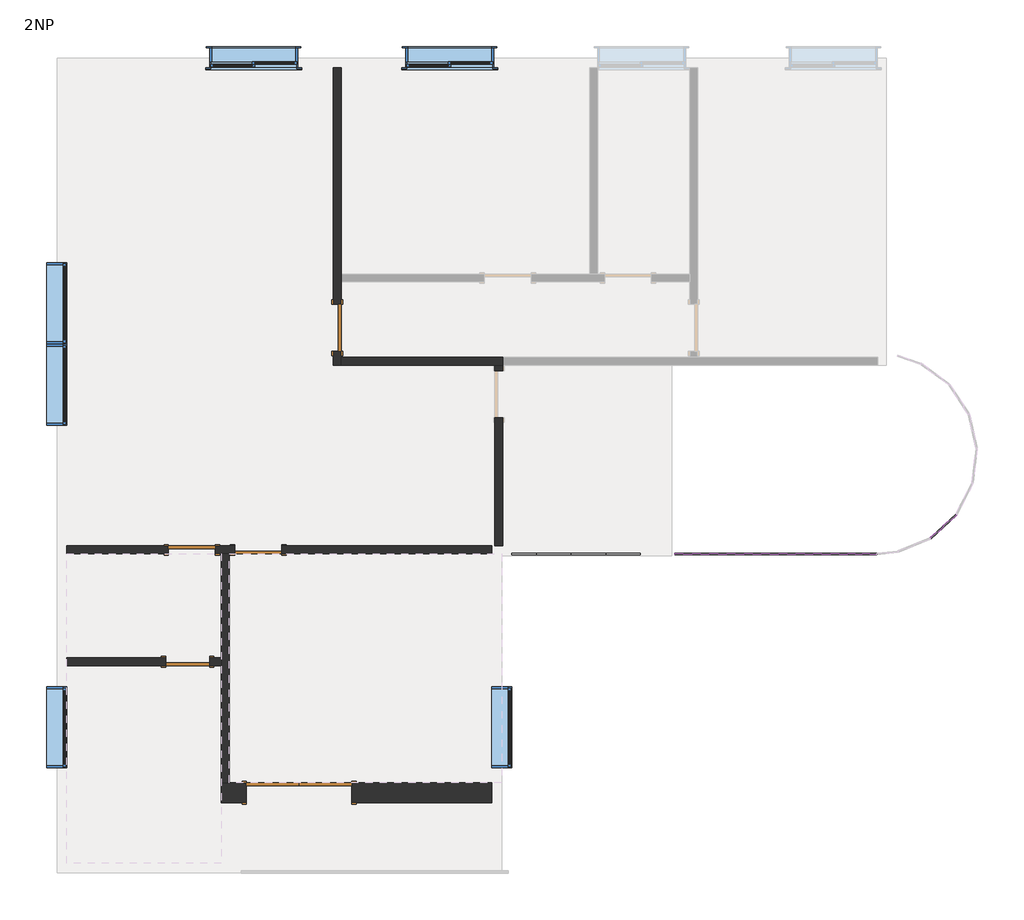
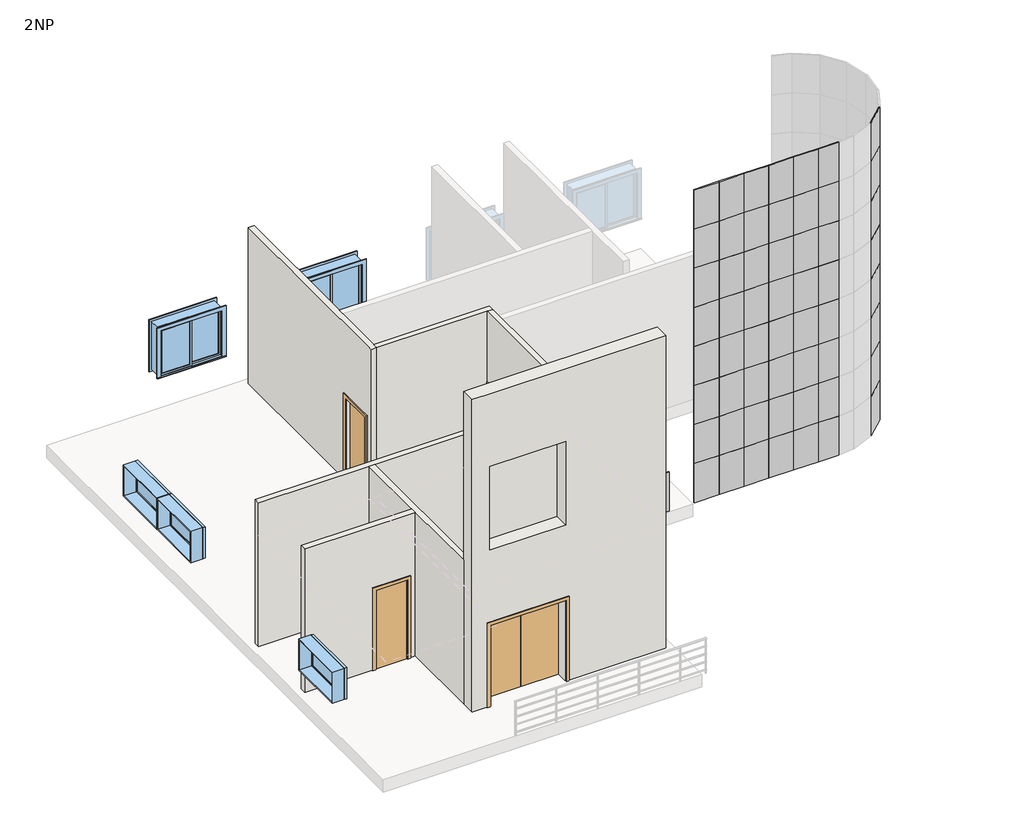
# One storey, part 1 of 2: 60 plates, 7 walls, 6 windows, 5 doors.
"""IFC4 building model written with IfcOpenShell, lengths in millimetres."""

from ifc_helpers import new_model, si_unit, frame, origin, place, context, project, spatial, polyline, outline, extrude, faceted_brep, transform, mapped, element, save
from components import m_double_flush_1830_x_2083mm_6dd157be, m_single_flush_0762_x_2032mm_8f3f8d24, m_single_flush_0813_x_2134mm_cfdfac75, system_panel_glazed_c3ce6646, system_panel_glazed_cfa42cd7, system_panel_glazed_9e0dc01b, system_panel_glazed_8955cf43, m_fixed_1400_x_0800mm_a23a53e8, m_sliding_with_trim_1830_x_1220mm_f8e2f31e

model = new_model("IFC4")

# Units and contexts
model_context = context("Model", 3, world=origin())
ifc_project = project(units=[si_unit("LENGTHUNIT", "METRE", prefix="MILLI")], contexts=[model_context])

# Site, building, storey
site = spatial("IfcSite", under=ifc_project)
building = spatial("IfcBuilding", under=site)
storey = spatial("IfcBuildingStorey", under=building, Name="2NP", Elevation=4000.0)

# Doors
placement = place(None, origin())
m_double_flush_1830_x_2083mm_shape = m_double_flush_1830_x_2083mm_6dd157be(model_context)
element("IfcDoor", 1, ObjectType="M_Double-Flush : 1830 x 2083mm", at=placement, inside=storey, context=model_context, shape_type="MappedRepresentation", body=[
    mapped(m_double_flush_1830_x_2083mm_shape, transform((-3151.8077176, -2850.1973194, 4000.0), x_axis=(0.9999999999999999, 0.0, 0.0), y_axis=(0.0, 0.9999999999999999, 0.0), z_axis=(0.0, 0.0, 1.0))),
])
m_single_flush_0762_x_2032mm_shape = m_single_flush_0762_x_2032mm_8f3f8d24(model_context)
element("IfcDoor", 2, ObjectType="M_Single-Flush : 0762 x 2032mm", at=placement, inside=storey, context=model_context, shape_type="MappedRepresentation", body=[
    mapped(m_single_flush_0762_x_2032mm_shape, transform((-5086.3077176, -582.9473194, 4000.0), x_axis=(1.0, 0.0, 0.0), y_axis=(0.0, 1.0, 0.0), z_axis=(0.0, 0.0, 1.0))),
])
m_single_flush_0813_x_2134mm_shape = m_single_flush_0813_x_2134mm_cfdfac75(model_context)
element("IfcDoor", 3, ObjectType="M_Single-Flush : 0813 x 2134mm", at=placement, inside=storey, context=model_context, shape_type="MappedRepresentation", body=[
    mapped(m_single_flush_0813_x_2134mm_shape, transform((-5011.8077176, 1355.5526806, 4000.0), x_axis=(1.0, 0.0, 0.0), y_axis=(0.0, 1.0, 0.0), z_axis=(0.0, 0.0, 1.0))),
])
element("IfcDoor", 4, ObjectType="M_Single-Flush : 0813 x 2134mm", at=placement, inside=storey, context=model_context, shape_type="MappedRepresentation", body=[
    mapped(m_single_flush_0813_x_2134mm_shape, transform((-3860.3077176, 1355.5526806, 4000.0), x_axis=(-1.0, 0.0, 0.0), y_axis=(0.0, -1.0, 0.0), z_axis=(0.0, 0.0, 1.0))),
])
element("IfcDoor", 5, ObjectType="M_Single-Flush : 0813 x 2134mm", at=placement, inside=storey, context=model_context, shape_type="MappedRepresentation", body=[
    mapped(m_single_flush_0813_x_2134mm_shape, transform((-2489.4577176, 5206.5261065, 4000.0), x_axis=(0.0, -1.0, 0.0), y_axis=(1.0, 0.0, 0.0), z_axis=(0.0, 0.0, 1.0))),
])

# Plates
system_panel_glazed_shape = system_panel_glazed_c3ce6646(model_context)
element("IfcPlate", 6, ObjectType="System Panel : Glazed", at=placement, inside=storey, context=model_context, shape_type="MappedRepresentation", body=[
    mapped(system_panel_glazed_shape, transform((1257.3775179, 1249.8026806, 4000.0), x_axis=(1.0, 0.0, 0.0), y_axis=(0.0, 1.0, 0.0), z_axis=(0.0, 0.0, 1.0))),
])
element("IfcPlate", 7, ObjectType="System Panel : Glazed", at=placement, inside=storey, context=model_context, shape_type="MappedRepresentation", body=[
    mapped(system_panel_glazed_shape, transform((1857.3775179, 1249.8026806, 4000.0), x_axis=(1.0, 0.0, 0.0), y_axis=(0.0, 1.0, 0.0), z_axis=(0.0, 0.0, 1.0))),
])
element("IfcPlate", 8, ObjectType="System Panel : Glazed", at=placement, inside=storey, context=model_context, shape_type="MappedRepresentation", body=[
    mapped(system_panel_glazed_shape, transform((2457.3775179, 1249.8026806, 4000.0), x_axis=(1.0, 0.0, 0.0), y_axis=(0.0, 1.0, 0.0), z_axis=(0.0, 0.0, 1.0))),
])
element("IfcPlate", 9, ObjectType="System Panel : Glazed", at=placement, inside=storey, context=model_context, shape_type="MappedRepresentation", body=[
    mapped(system_panel_glazed_shape, transform((3657.3775179, 1249.8026806, 4000.0), x_axis=(1.0, 0.0, 0.0), y_axis=(0.0, 1.0, 0.0), z_axis=(0.0, 0.0, 1.0))),
])
element("IfcPlate", 10, ObjectType="System Panel : Glazed", at=placement, inside=storey, context=model_context, shape_type="MappedRepresentation", body=[
    mapped(system_panel_glazed_shape, transform((3657.3775179, 1249.8026806, 5000.0), x_axis=(1.0, 0.0, 0.0), y_axis=(0.0, 1.0, 0.0), z_axis=(0.0, 0.0, 1.0))),
])
element("IfcPlate", 11, ObjectType="System Panel : Glazed", at=placement, inside=storey, context=model_context, shape_type="MappedRepresentation", body=[
    mapped(system_panel_glazed_shape, transform((3657.3775179, 1249.8026806, 6000.0), x_axis=(1.0, 0.0, 0.0), y_axis=(0.0, 1.0, 0.0), z_axis=(0.0, 0.0, 1.0))),
])
element("IfcPlate", 12, ObjectType="System Panel : Glazed", at=placement, inside=storey, context=model_context, shape_type="MappedRepresentation", body=[
    mapped(system_panel_glazed_shape, transform((3657.3775179, 1249.8026806, 7000.0), x_axis=(1.0, 0.0, 0.0), y_axis=(0.0, 1.0, 0.0), z_axis=(0.0, 0.0, 1.0))),
])
element("IfcPlate", 13, ObjectType="System Panel : Glazed", at=placement, inside=storey, context=model_context, shape_type="MappedRepresentation", body=[
    mapped(system_panel_glazed_shape, transform((3657.3775179, 1249.8026806, 8000.0), x_axis=(1.0, 0.0, 0.0), y_axis=(0.0, 1.0, 0.0), z_axis=(0.0, 0.0, 1.0))),
])
element("IfcPlate", 14, ObjectType="System Panel : Glazed", at=placement, inside=storey, context=model_context, shape_type="MappedRepresentation", body=[
    mapped(system_panel_glazed_shape, transform((3657.3775179, 1249.8026806, 9000.0), x_axis=(1.0, 0.0, 0.0), y_axis=(0.0, 1.0, 0.0), z_axis=(0.0, 0.0, 1.0))),
])
element("IfcPlate", 15, ObjectType="System Panel : Glazed", at=placement, inside=storey, context=model_context, shape_type="MappedRepresentation", body=[
    mapped(system_panel_glazed_shape, transform((3657.3775179, 1249.8026806, 10000.0), x_axis=(1.0, 0.0, 0.0), y_axis=(0.0, 1.0, 0.0), z_axis=(0.0, 0.0, 1.0))),
])
element("IfcPlate", 16, ObjectType="System Panel : Glazed", at=placement, inside=storey, context=model_context, shape_type="MappedRepresentation", body=[
    mapped(system_panel_glazed_shape, transform((3657.3775179, 1249.8026806, 11000.0), x_axis=(1.0, 0.0, 0.0), y_axis=(0.0, 1.0, 0.0), z_axis=(0.0, 0.0, 1.0))),
])
element("IfcPlate", 17, ObjectType="System Panel : Glazed", at=placement, inside=storey, context=model_context, shape_type="MappedRepresentation", body=[
    mapped(system_panel_glazed_shape, transform((4257.3775179, 1249.8026806, 4000.0), x_axis=(1.0, 0.0, 0.0), y_axis=(0.0, 1.0, 0.0), z_axis=(0.0, 0.0, 1.0))),
])
element("IfcPlate", 18, ObjectType="System Panel : Glazed", at=placement, inside=storey, context=model_context, shape_type="MappedRepresentation", body=[
    mapped(system_panel_glazed_shape, transform((4257.3775179, 1249.8026806, 5000.0), x_axis=(1.0, 0.0, 0.0), y_axis=(0.0, 1.0, 0.0), z_axis=(0.0, 0.0, 1.0))),
])
element("IfcPlate", 19, ObjectType="System Panel : Glazed", at=placement, inside=storey, context=model_context, shape_type="MappedRepresentation", body=[
    mapped(system_panel_glazed_shape, transform((4257.3775179, 1249.8026806, 6000.0), x_axis=(1.0, 0.0, 0.0), y_axis=(0.0, 1.0, 0.0), z_axis=(0.0, 0.0, 1.0))),
])
element("IfcPlate", 20, ObjectType="System Panel : Glazed", at=placement, inside=storey, context=model_context, shape_type="MappedRepresentation", body=[
    mapped(system_panel_glazed_shape, transform((4257.3775179, 1249.8026806, 7000.0), x_axis=(1.0, 0.0, 0.0), y_axis=(0.0, 1.0, 0.0), z_axis=(0.0, 0.0, 1.0))),
])
element("IfcPlate", 21, ObjectType="System Panel : Glazed", at=placement, inside=storey, context=model_context, shape_type="MappedRepresentation", body=[
    mapped(system_panel_glazed_shape, transform((4257.3775179, 1249.8026806, 8000.0), x_axis=(1.0, 0.0, 0.0), y_axis=(0.0, 1.0, 0.0), z_axis=(0.0, 0.0, 1.0))),
])
element("IfcPlate", 22, ObjectType="System Panel : Glazed", at=placement, inside=storey, context=model_context, shape_type="MappedRepresentation", body=[
    mapped(system_panel_glazed_shape, transform((4257.3775179, 1249.8026806, 9000.0), x_axis=(1.0, 0.0, 0.0), y_axis=(0.0, 1.0, 0.0), z_axis=(0.0, 0.0, 1.0))),
])
element("IfcPlate", 23, ObjectType="System Panel : Glazed", at=placement, inside=storey, context=model_context, shape_type="MappedRepresentation", body=[
    mapped(system_panel_glazed_shape, transform((4257.3775179, 1249.8026806, 10000.0), x_axis=(1.0, 0.0, 0.0), y_axis=(0.0, 1.0, 0.0), z_axis=(0.0, 0.0, 1.0))),
])
element("IfcPlate", 24, ObjectType="System Panel : Glazed", at=placement, inside=storey, context=model_context, shape_type="MappedRepresentation", body=[
    mapped(system_panel_glazed_shape, transform((4257.3775179, 1249.8026806, 11000.0), x_axis=(1.0, 0.0, 0.0), y_axis=(0.0, 1.0, 0.0), z_axis=(0.0, 0.0, 1.0))),
])
element("IfcPlate", 25, ObjectType="System Panel : Glazed", at=placement, inside=storey, context=model_context, shape_type="MappedRepresentation", body=[
    mapped(system_panel_glazed_shape, transform((4857.3775179, 1249.8026806, 4000.0), x_axis=(1.0, 0.0, 0.0), y_axis=(0.0, 1.0, 0.0), z_axis=(0.0, 0.0, 1.0))),
])
element("IfcPlate", 26, ObjectType="System Panel : Glazed", at=placement, inside=storey, context=model_context, shape_type="MappedRepresentation", body=[
    mapped(system_panel_glazed_shape, transform((4857.3775179, 1249.8026806, 5000.0), x_axis=(1.0, 0.0, 0.0), y_axis=(0.0, 1.0, 0.0), z_axis=(0.0, 0.0, 1.0))),
])
element("IfcPlate", 27, ObjectType="System Panel : Glazed", at=placement, inside=storey, context=model_context, shape_type="MappedRepresentation", body=[
    mapped(system_panel_glazed_shape, transform((4857.3775179, 1249.8026806, 6000.0), x_axis=(1.0, 0.0, 0.0), y_axis=(0.0, 1.0, 0.0), z_axis=(0.0, 0.0, 1.0))),
])
element("IfcPlate", 28, ObjectType="System Panel : Glazed", at=placement, inside=storey, context=model_context, shape_type="MappedRepresentation", body=[
    mapped(system_panel_glazed_shape, transform((4857.3775179, 1249.8026806, 7000.0), x_axis=(1.0, 0.0, 0.0), y_axis=(0.0, 1.0, 0.0), z_axis=(0.0, 0.0, 1.0))),
])
element("IfcPlate", 29, ObjectType="System Panel : Glazed", at=placement, inside=storey, context=model_context, shape_type="MappedRepresentation", body=[
    mapped(system_panel_glazed_shape, transform((4857.3775179, 1249.8026806, 8000.0), x_axis=(1.0, 0.0, 0.0), y_axis=(0.0, 1.0, 0.0), z_axis=(0.0, 0.0, 1.0))),
])
element("IfcPlate", 30, ObjectType="System Panel : Glazed", at=placement, inside=storey, context=model_context, shape_type="MappedRepresentation", body=[
    mapped(system_panel_glazed_shape, transform((4857.3775179, 1249.8026806, 9000.0), x_axis=(1.0, 0.0, 0.0), y_axis=(0.0, 1.0, 0.0), z_axis=(0.0, 0.0, 1.0))),
])
element("IfcPlate", 31, ObjectType="System Panel : Glazed", at=placement, inside=storey, context=model_context, shape_type="MappedRepresentation", body=[
    mapped(system_panel_glazed_shape, transform((4857.3775179, 1249.8026806, 10000.0), x_axis=(1.0, 0.0, 0.0), y_axis=(0.0, 1.0, 0.0), z_axis=(0.0, 0.0, 1.0))),
])
element("IfcPlate", 32, ObjectType="System Panel : Glazed", at=placement, inside=storey, context=model_context, shape_type="MappedRepresentation", body=[
    mapped(system_panel_glazed_shape, transform((4857.3775179, 1249.8026806, 11000.0), x_axis=(1.0, 0.0, 0.0), y_axis=(0.0, 1.0, 0.0), z_axis=(0.0, 0.0, 1.0))),
])
element("IfcPlate", 33, ObjectType="System Panel : Glazed", at=placement, inside=storey, context=model_context, shape_type="MappedRepresentation", body=[
    mapped(system_panel_glazed_shape, transform((5457.3775179, 1249.8026806, 4000.0), x_axis=(1.0, 0.0, 0.0), y_axis=(0.0, 1.0, 0.0), z_axis=(0.0, 0.0, 1.0))),
])
element("IfcPlate", 34, ObjectType="System Panel : Glazed", at=placement, inside=storey, context=model_context, shape_type="MappedRepresentation", body=[
    mapped(system_panel_glazed_shape, transform((5457.3775179, 1249.8026806, 5000.0), x_axis=(1.0, 0.0, 0.0), y_axis=(0.0, 1.0, 0.0), z_axis=(0.0, 0.0, 1.0))),
])
element("IfcPlate", 35, ObjectType="System Panel : Glazed", at=placement, inside=storey, context=model_context, shape_type="MappedRepresentation", body=[
    mapped(system_panel_glazed_shape, transform((5457.3775179, 1249.8026806, 6000.0), x_axis=(1.0, 0.0, 0.0), y_axis=(0.0, 1.0, 0.0), z_axis=(0.0, 0.0, 1.0))),
])
element("IfcPlate", 36, ObjectType="System Panel : Glazed", at=placement, inside=storey, context=model_context, shape_type="MappedRepresentation", body=[
    mapped(system_panel_glazed_shape, transform((5457.3775179, 1249.8026806, 7000.0), x_axis=(1.0, 0.0, 0.0), y_axis=(0.0, 1.0, 0.0), z_axis=(0.0, 0.0, 1.0))),
])
element("IfcPlate", 37, ObjectType="System Panel : Glazed", at=placement, inside=storey, context=model_context, shape_type="MappedRepresentation", body=[
    mapped(system_panel_glazed_shape, transform((5457.3775179, 1249.8026806, 8000.0), x_axis=(1.0, 0.0, 0.0), y_axis=(0.0, 1.0, 0.0), z_axis=(0.0, 0.0, 1.0))),
])
element("IfcPlate", 38, ObjectType="System Panel : Glazed", at=placement, inside=storey, context=model_context, shape_type="MappedRepresentation", body=[
    mapped(system_panel_glazed_shape, transform((5457.3775179, 1249.8026806, 9000.0), x_axis=(1.0, 0.0, 0.0), y_axis=(0.0, 1.0, 0.0), z_axis=(0.0, 0.0, 1.0))),
])
element("IfcPlate", 39, ObjectType="System Panel : Glazed", at=placement, inside=storey, context=model_context, shape_type="MappedRepresentation", body=[
    mapped(system_panel_glazed_shape, transform((5457.3775179, 1249.8026806, 10000.0), x_axis=(1.0, 0.0, 0.0), y_axis=(0.0, 1.0, 0.0), z_axis=(0.0, 0.0, 1.0))),
])
element("IfcPlate", 40, ObjectType="System Panel : Glazed", at=placement, inside=storey, context=model_context, shape_type="MappedRepresentation", body=[
    mapped(system_panel_glazed_shape, transform((5457.3775179, 1249.8026806, 11000.0), x_axis=(1.0, 0.0, 0.0), y_axis=(0.0, 1.0, 0.0), z_axis=(0.0, 0.0, 1.0))),
])
element("IfcPlate", 41, ObjectType="System Panel : Glazed", at=placement, inside=storey, context=model_context, shape_type="MappedRepresentation", body=[
    mapped(system_panel_glazed_shape, transform((6057.3775179, 1249.8026806, 4000.0), x_axis=(1.0, 0.0, 0.0), y_axis=(0.0, 1.0, 0.0), z_axis=(0.0, 0.0, 1.0))),
])
element("IfcPlate", 42, ObjectType="System Panel : Glazed", at=placement, inside=storey, context=model_context, shape_type="MappedRepresentation", body=[
    mapped(system_panel_glazed_shape, transform((6057.3775179, 1249.8026806, 5000.0), x_axis=(1.0, 0.0, 0.0), y_axis=(0.0, 1.0, 0.0), z_axis=(0.0, 0.0, 1.0))),
])
element("IfcPlate", 43, ObjectType="System Panel : Glazed", at=placement, inside=storey, context=model_context, shape_type="MappedRepresentation", body=[
    mapped(system_panel_glazed_shape, transform((6057.3775179, 1249.8026806, 6000.0), x_axis=(1.0, 0.0, 0.0), y_axis=(0.0, 1.0, 0.0), z_axis=(0.0, 0.0, 1.0))),
])
element("IfcPlate", 44, ObjectType="System Panel : Glazed", at=placement, inside=storey, context=model_context, shape_type="MappedRepresentation", body=[
    mapped(system_panel_glazed_shape, transform((6057.3775179, 1249.8026806, 7000.0), x_axis=(1.0, 0.0, 0.0), y_axis=(0.0, 1.0, 0.0), z_axis=(0.0, 0.0, 1.0))),
])
element("IfcPlate", 45, ObjectType="System Panel : Glazed", at=placement, inside=storey, context=model_context, shape_type="MappedRepresentation", body=[
    mapped(system_panel_glazed_shape, transform((6057.3775179, 1249.8026806, 8000.0), x_axis=(1.0, 0.0, 0.0), y_axis=(0.0, 1.0, 0.0), z_axis=(0.0, 0.0, 1.0))),
])
element("IfcPlate", 46, ObjectType="System Panel : Glazed", at=placement, inside=storey, context=model_context, shape_type="MappedRepresentation", body=[
    mapped(system_panel_glazed_shape, transform((6057.3775179, 1249.8026806, 9000.0), x_axis=(1.0, 0.0, 0.0), y_axis=(0.0, 1.0, 0.0), z_axis=(0.0, 0.0, 1.0))),
])
element("IfcPlate", 47, ObjectType="System Panel : Glazed", at=placement, inside=storey, context=model_context, shape_type="MappedRepresentation", body=[
    mapped(system_panel_glazed_shape, transform((6057.3775179, 1249.8026806, 10000.0), x_axis=(1.0, 0.0, 0.0), y_axis=(0.0, 1.0, 0.0), z_axis=(0.0, 0.0, 1.0))),
])
element("IfcPlate", 48, ObjectType="System Panel : Glazed", at=placement, inside=storey, context=model_context, shape_type="MappedRepresentation", body=[
    mapped(system_panel_glazed_shape, transform((6057.3775179, 1249.8026806, 11000.0), x_axis=(1.0, 0.0, 0.0), y_axis=(0.0, 1.0, 0.0), z_axis=(0.0, 0.0, 1.0))),
])
system_panel_glazed_2_shape = system_panel_glazed_cfa42cd7(model_context)
element("IfcPlate", 49, ObjectType="System Panel : Glazed", at=placement, inside=storey, context=model_context, shape_type="MappedRepresentation", body=[
    mapped(system_panel_glazed_2_shape, transform((7988.6102827, 1791.0598357, 4000.0), x_axis=(-0.7365089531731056, -0.6764277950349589, 0.0), y_axis=(0.6764277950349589, -0.7365089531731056, 0.0), z_axis=(0.0, 0.0, 1.0))),
])
element("IfcPlate", 50, ObjectType="System Panel : Glazed", at=placement, inside=storey, context=model_context, shape_type="MappedRepresentation", body=[
    mapped(system_panel_glazed_2_shape, transform((7988.6102827, 1791.0598357, 5000.0), x_axis=(-0.7365089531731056, -0.6764277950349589, 0.0), y_axis=(0.6764277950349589, -0.7365089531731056, 0.0), z_axis=(0.0, 0.0, 1.0))),
])
element("IfcPlate", 51, ObjectType="System Panel : Glazed", at=placement, inside=storey, context=model_context, shape_type="MappedRepresentation", body=[
    mapped(system_panel_glazed_2_shape, transform((7988.6102827, 1791.0598357, 6000.0), x_axis=(-0.7365089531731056, -0.6764277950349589, 0.0), y_axis=(0.6764277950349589, -0.7365089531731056, 0.0), z_axis=(0.0, 0.0, 1.0))),
])
element("IfcPlate", 52, ObjectType="System Panel : Glazed", at=placement, inside=storey, context=model_context, shape_type="MappedRepresentation", body=[
    mapped(system_panel_glazed_2_shape, transform((7988.6102827, 1791.0598357, 7000.0), x_axis=(-0.7365089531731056, -0.6764277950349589, 0.0), y_axis=(0.6764277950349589, -0.7365089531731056, 0.0), z_axis=(0.0, 0.0, 1.0))),
])
element("IfcPlate", 53, ObjectType="System Panel : Glazed", at=placement, inside=storey, context=model_context, shape_type="MappedRepresentation", body=[
    mapped(system_panel_glazed_2_shape, transform((7988.6102827, 1791.0598357, 8000.0), x_axis=(-0.7365089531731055, -0.676427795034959, 0.0), y_axis=(0.676427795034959, -0.7365089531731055, 0.0), z_axis=(0.0, 0.0, 1.0))),
])
element("IfcPlate", 54, ObjectType="System Panel : Glazed", at=placement, inside=storey, context=model_context, shape_type="MappedRepresentation", body=[
    mapped(system_panel_glazed_2_shape, transform((7988.6102827, 1791.0598357, 9000.0), x_axis=(-0.7365089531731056, -0.6764277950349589, 0.0), y_axis=(0.6764277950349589, -0.7365089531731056, 0.0), z_axis=(0.0, 0.0, 1.0))),
])
element("IfcPlate", 55, ObjectType="System Panel : Glazed", at=placement, inside=storey, context=model_context, shape_type="MappedRepresentation", body=[
    mapped(system_panel_glazed_2_shape, transform((7988.6102827, 1791.0598357, 10000.0), x_axis=(-0.7365089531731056, -0.6764277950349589, 0.0), y_axis=(0.6764277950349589, -0.7365089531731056, 0.0), z_axis=(0.0, 0.0, 1.0))),
])
element("IfcPlate", 56, ObjectType="System Panel : Glazed", at=placement, inside=storey, context=model_context, shape_type="MappedRepresentation", body=[
    mapped(system_panel_glazed_2_shape, transform((7988.6102827, 1791.0598357, 11000.0), x_axis=(-0.7365089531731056, -0.6764277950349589, 0.0), y_axis=(0.6764277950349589, -0.7365089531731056, 0.0), z_axis=(0.0, 0.0, 1.0))),
])
system_panel_glazed_3_shape = system_panel_glazed_9e0dc01b(model_context)
element("IfcPlate", 57, ObjectType="System Panel : Glazed", at=placement, inside=storey, context=model_context, shape_type="MappedRepresentation", body=[
    mapped(system_panel_glazed_3_shape, transform((744.8775179, 1249.8026806, 4000.0), x_axis=(1.0, 0.0, 0.0), y_axis=(0.0, 1.0, 0.0), z_axis=(0.0, 0.0, 1.0))),
])
system_panel_glazed_4_shape = system_panel_glazed_8955cf43(model_context)
element("IfcPlate", 58, ObjectType="System Panel : Glazed", at=placement, inside=storey, context=model_context, shape_type="MappedRepresentation", body=[
    mapped(system_panel_glazed_4_shape, transform((6608.1852814, 1249.8026806, 4000.0), x_axis=(1.0, 0.0, 0.0), y_axis=(0.0, 1.0, 0.0), z_axis=(0.0, 0.0, 1.0))),
])
element("IfcPlate", 59, ObjectType="System Panel : Glazed", at=placement, inside=storey, context=model_context, shape_type="MappedRepresentation", body=[
    mapped(system_panel_glazed_4_shape, transform((6608.1852814, 1249.8026806, 5000.0), x_axis=(1.0, 0.0, 0.0), y_axis=(0.0, 1.0, 0.0), z_axis=(0.0, 0.0, 1.0))),
])
element("IfcPlate", 60, ObjectType="System Panel : Glazed", at=placement, inside=storey, context=model_context, shape_type="MappedRepresentation", body=[
    mapped(system_panel_glazed_4_shape, transform((6608.1852814, 1249.8026806, 6000.0), x_axis=(1.0, 0.0, 0.0), y_axis=(0.0, 1.0, 0.0), z_axis=(0.0, 0.0, 1.0))),
])
element("IfcPlate", 61, ObjectType="System Panel : Glazed", at=placement, inside=storey, context=model_context, shape_type="MappedRepresentation", body=[
    mapped(system_panel_glazed_4_shape, transform((6608.1852814, 1249.8026806, 7000.0), x_axis=(1.0, 0.0, 0.0), y_axis=(0.0, 1.0, 0.0), z_axis=(0.0, 0.0, 1.0))),
])
element("IfcPlate", 62, ObjectType="System Panel : Glazed", at=placement, inside=storey, context=model_context, shape_type="MappedRepresentation", body=[
    mapped(system_panel_glazed_4_shape, transform((6608.1852814, 1249.8026806, 8000.0), x_axis=(1.0, 0.0, 0.0), y_axis=(0.0, 1.0, 0.0), z_axis=(0.0, 0.0, 1.0))),
])
element("IfcPlate", 63, ObjectType="System Panel : Glazed", at=placement, inside=storey, context=model_context, shape_type="MappedRepresentation", body=[
    mapped(system_panel_glazed_4_shape, transform((6608.1852814, 1249.8026806, 9000.0), x_axis=(1.0, 0.0, 0.0), y_axis=(0.0, 1.0, 0.0), z_axis=(0.0, 0.0, 1.0))),
])
element("IfcPlate", 64, ObjectType="System Panel : Glazed", at=placement, inside=storey, context=model_context, shape_type="MappedRepresentation", body=[
    mapped(system_panel_glazed_4_shape, transform((6608.1852814, 1249.8026806, 10000.0), x_axis=(1.0, 0.0, 0.0), y_axis=(0.0, 1.0, 0.0), z_axis=(0.0, 0.0, 1.0))),
])
element("IfcPlate", 65, ObjectType="System Panel : Glazed", at=placement, inside=storey, context=model_context, shape_type="MappedRepresentation", body=[
    mapped(system_panel_glazed_4_shape, transform((6608.1852814, 1249.8026806, 11000.0), x_axis=(1.0, 0.0, 0.0), y_axis=(0.0, 1.0, 0.0), z_axis=(0.0, 0.0, 1.0))),
])

# Walls
element("IfcWall", 66, ObjectType="Exterior - Brick on Mtl. Stud", at=placement, inside=storey, context=model_context, shape_type="Brep", body=[
    faceted_brep([(-2236.8077176, -3025.1973194, 6083.0), (-2236.8077176, -3025.1973194, 4000.0), (182.3775179, -3025.1973194, 4000.0), (182.3775179, -3025.1973194, 12000.0), (-4155.3077176, -3025.1973194, 12000.0), (-4505.3077176, -3025.1973194, 12000.0), (-4505.3077176, -3025.1973194, 4000.0), (-4155.3077176, -3025.1973194, 4000.0), (-4066.8077176, -3025.1973194, 4000.0), (-4066.8077176, -3025.1973194, 6083.0), (-2236.8077176, -3025.1973194, 8000.0), (-4066.8077176, -3025.1973194, 8000.0), (-4066.8077176, -3025.1973194, 10134.0), (-2236.8077176, -3025.1973194, 10134.0), (182.3775179, -2675.1973194, 4000.0), (-2236.8077176, -2675.1973194, 4000.0), (-2236.8077176, -2675.1973194, 6083.0), (-4066.8077176, -2675.1973194, 6083.0), (-4066.8077176, -2675.1973194, 4000.0), (-4155.3077176, -2675.1973194, 4000.0), (-4505.3077176, -2675.1973194, 4000.0), (-4505.3077176, -2675.1973194, 7680.0), (-4505.3077176, -2675.1973194, 8000.0), (-4505.3077176, -2675.1973194, 12000.0), (-4366.8077176, -2675.1973194, 12000.0), (182.3775179, -2675.1973194, 12000.0), (-2236.8077176, -2675.1973194, 8000.0), (-2236.8077176, -2675.1973194, 10134.0), (-4066.8077176, -2675.1973194, 10134.0), (-4066.8077176, -2675.1973194, 8000.0)], [[[0, 1, 2, 3, 4, 5, 6, 7, 8, 9], [10, 11, 12, 13]], [[14, 15, 16, 17, 18, 19, 20, 21, 22, 23, 24, 25], [26, 27, 28, 29]], [[2, 1, 15, 14]], [[8, 7, 6, 20, 19, 18]], [[5, 4, 3, 25, 24, 23]], [[5, 23, 22, 21, 20, 6]], [[3, 2, 14, 25]], [[16, 15, 1, 0]], [[17, 16, 0, 9]], [[18, 17, 9, 8]], [[27, 26, 10, 13]], [[28, 27, 13, 12]], [[29, 28, 12, 11]], [[26, 29, 11, 10]]]),
])
element("IfcWall", 67, ObjectType="Interior - 138mm Partition (1-hr)", at=placement, inside=storey, context=model_context, shape_type="Brep", body=[
    faceted_brep([(-4266.8077176, 1424.8026806, 6134.0), (-4266.8077176, 1424.8026806, 4000.0), (-4605.3077176, 1424.8026806, 4000.0), (-4605.3077176, 1424.8026806, 6134.0), (-5418.3077176, 1424.8026806, 6134.0), (-5418.3077176, 1424.8026806, 4000.0), (-7180.3077176, 1424.8026806, 4000.0), (-7180.3077176, 1424.8026806, 7680.0), (182.3775179, 1424.8026806, 7680.0), (182.3775179, 1424.8026806, 4000.0), (-3453.8077176, 1424.8026806, 4000.0), (-3453.8077176, 1424.8026806, 6134.0), (-4605.3077176, 1286.3026806, 4000.0), (-4505.3077176, 1286.3026806, 4000.0), (-4366.8077176, 1286.3026806, 4000.0), (-4266.8077176, 1286.3026806, 4000.0), (-4266.8077176, 1286.3026806, 6134.0), (-3453.8077176, 1286.3026806, 6134.0), (-3453.8077176, 1286.3026806, 4000.0), (182.3775179, 1286.3026806, 4000.0), (182.3775179, 1286.3026806, 7680.0), (-4366.8077176, 1286.3026806, 7680.0), (-4505.3077176, 1286.3026806, 7680.0), (-7180.3077176, 1286.3026806, 7680.0), (-7180.3077176, 1286.3026806, 4000.0), (-5418.3077176, 1286.3026806, 4000.0), (-5418.3077176, 1286.3026806, 6134.0), (-4605.3077176, 1286.3026806, 6134.0)], [[[0, 1, 2, 3, 4, 5, 6, 7, 8, 9, 10, 11]], [[12, 13, 14, 15, 16, 17, 18, 19, 20, 21, 22, 23, 24, 25, 26, 27]], [[2, 1, 15, 14, 13, 12]], [[25, 24, 6, 5]], [[10, 9, 19, 18]], [[7, 6, 24, 23]], [[9, 8, 20, 19]], [[8, 7, 23, 22, 21, 20]], [[3, 2, 12, 27]], [[4, 3, 27, 26]], [[5, 4, 26, 25]], [[16, 15, 1, 0]], [[17, 16, 0, 11]], [[18, 17, 11, 10]]]),
])
element("IfcWall", 68, ObjectType="Interior - 138mm Partition (1-hr)", at=placement, inside=storey, context=model_context, shape_type="Brep", body=[
    faceted_brep([(-4505.3077176, 1286.3026806, 4000.0), (-4505.3077176, -513.6973194, 4000.0), (-4505.3077176, -652.1973194, 4000.0), (-4505.3077176, -2675.1973194, 4000.0), (-4505.3077176, -2675.1973194, 7680.0), (-4505.3077176, -652.1973194, 7680.0), (-4505.3077176, -513.6973194, 7680.0), (-4505.3077176, 1286.3026806, 7680.0), (-4366.8077176, 1286.3026806, 4000.0), (-4366.8077176, 1286.3026806, 7680.0), (-4366.8077176, -2675.1973194, 7680.0), (-4366.8077176, -2675.1973194, 4000.0)], [[[0, 1, 2, 3, 4, 5, 6, 7]], [[8, 9, 10, 11]], [[3, 2, 1, 0, 8, 11]], [[4, 3, 11, 10]], [[0, 7, 9, 8]], [[7, 6, 5, 4, 10, 9]]]),
])
element("IfcWall", 69, ObjectType="Interior - 138mm Partition (1-hr)", at=placement, inside=storey, context=model_context, shape_type="SweptSolid", body=[
    extrude(outline(polyline([(7680.0, -7180.3077176), (4000.0, -7180.3077176), (4000.0, -5467.3077176), (6032.0, -5467.3077176), (6032.0, -4705.3077176), (4000.0, -4705.3077176), (4000.0, -4505.3077176), (7680.0, -4505.3077176), (7680.0, -7180.3077176)])), frame((0.0, -652.1973194, 0.0), z_axis=(0.0, 1.0, 0.0), x_axis=(0.0, 0.0, 1.0)), (0.0, 0.0, 1.0), 138.5),
])
element("IfcWall", 70, ObjectType="Interior - 138mm Partition (1-hr)", at=placement, inside=storey, context=model_context, shape_type="Brep", body=[
    faceted_brep([(-2558.7077176, 4800.0261065, 6134.0), (-2558.7077176, 4800.0261065, 4000.0), (-2558.7077176, 4561.5261065, 4000.0), (-2558.7077176, 4561.5261065, 8000.0), (-2558.7077176, 9711.6003657, 8000.0), (-2558.7077176, 9711.6003657, 4000.0), (-2558.7077176, 5613.0261065, 4000.0), (-2558.7077176, 5613.0261065, 6134.0), (-2420.2077176, 4561.5261065, 4000.0), (-2420.2077176, 4700.0261065, 4000.0), (-2420.2077176, 4800.0261065, 4000.0), (-2420.2077176, 4800.0261065, 6134.0), (-2420.2077176, 5613.0261065, 6134.0), (-2420.2077176, 5613.0261065, 4000.0), (-2420.2077176, 6000.0261065, 4000.0), (-2420.2077176, 6138.5261065, 4000.0), (-2420.2077176, 9711.6003657, 4000.0), (-2420.2077176, 9711.6003657, 8000.0), (-2420.2077176, 6138.5261065, 8000.0), (-2420.2077176, 6000.0261065, 8000.0), (-2420.2077176, 4700.0261065, 8000.0), (-2420.2077176, 4561.5261065, 8000.0)], [[[0, 1, 2, 3, 4, 5, 6, 7]], [[8, 9, 10, 11, 12, 13, 14, 15, 16, 17, 18, 19, 20, 21]], [[2, 1, 10, 9, 8]], [[6, 5, 16, 15, 14, 13]], [[4, 3, 21, 20, 19, 18, 17]], [[3, 2, 8, 21]], [[5, 4, 17, 16]], [[11, 10, 1, 0]], [[12, 11, 0, 7]], [[13, 12, 7, 6]]]),
])
element("IfcWall", 71, ObjectType="Interior - 138mm Partition (1-hr)", at=placement, inside=storey, context=model_context, shape_type="Brep", body=[
    faceted_brep([(-2420.2077176, 4561.5261065, 4000.0), (241.2922824, 4561.5261065, 4000.0), (379.7922824, 4561.5261065, 4000.0), (379.7922824, 4561.5261065, 8000.0), (241.2922824, 4561.5261065, 8000.0), (-2420.2077176, 4561.5261065, 8000.0), (-2420.2077176, 4700.0261065, 4000.0), (-2420.2077176, 4700.0261065, 8000.0), (379.7922824, 4700.0261065, 8000.0), (379.7922824, 4700.0261065, 4000.0)], [[[0, 1, 2, 3, 4, 5]], [[6, 7, 8, 9]], [[2, 1, 0, 6, 9]], [[5, 4, 3, 8, 7]], [[2, 9, 8, 3]], [[0, 5, 7, 6]]]),
])
element("IfcWall", 72, ObjectType="Interior - 138mm Partition (1-hr)", at=placement, inside=storey, context=model_context, shape_type="SweptSolid", body=[
    extrude(outline(polyline([(4561.5261065, 4000.0), (4461.5261065, 4000.0), (4461.5261065, 6134.0), (3648.5261065, 6134.0), (3648.5261065, 4000.0), (1424.8026806, 4000.0), (1424.8026806, 8000.0), (4561.5261065, 8000.0), (4561.5261065, 4000.0)])), frame((241.2922824, 0.0, 0.0), z_axis=(1.0, 0.0, 0.0), x_axis=(0.0, 1.0, 0.0)), (0.0, 0.0, 1.0), 138.5),
])

# Windows
m_fixed_1400_x_0800mm_shape = m_fixed_1400_x_0800mm_a23a53e8(model_context)
element("IfcWindow", 73, ObjectType="M_Fixed : 1400 x 0800mm", at=placement, inside=storey, context=model_context, shape_type="MappedRepresentation", body=[
    mapped(m_fixed_1400_x_0800mm_shape, transform((-7368.3077176, -1717.6973194, 4000.0), x_axis=(0.0, -1.0, 0.0), y_axis=(1.0, 0.0, 0.0), z_axis=(0.0, 0.0, 1.0))),
])
element("IfcWindow", 74, ObjectType="M_Fixed : 1400 x 0800mm", at=placement, inside=storey, context=model_context, shape_type="MappedRepresentation", body=[
    mapped(m_fixed_1400_x_0800mm_shape, transform((-7368.3077176, 4217.3026806, 4000.0), x_axis=(0.0, -1.0, 0.0), y_axis=(1.0, 0.0, 0.0), z_axis=(0.0, 0.0, 1.0))),
])
element("IfcWindow", 75, ObjectType="M_Fixed : 1400 x 0800mm", at=placement, inside=storey, context=model_context, shape_type="MappedRepresentation", body=[
    mapped(m_fixed_1400_x_0800mm_shape, transform((-7368.3077176, 5632.3026806, 4000.0), x_axis=(0.0, -1.0, 0.0), y_axis=(1.0, 0.0, 0.0), z_axis=(0.0, 0.0, 1.0))),
])
element("IfcWindow", 76, ObjectType="M_Fixed : 1400 x 0800mm", at=placement, inside=storey, context=model_context, shape_type="MappedRepresentation", body=[
    mapped(m_fixed_1400_x_0800mm_shape, transform((344.3775179, -1717.6973194, 4000.0), x_axis=(0.0, -1.0, 0.0), y_axis=(1.0, 0.0, 0.0), z_axis=(0.0, 0.0, 1.0))),
])
m_sliding_with_trim_1830_x_1220mm_shape = m_sliding_with_trim_1830_x_1220mm_f8e2f31e(model_context)
element("IfcWindow", 77, ObjectType="M_Sliding with Trim : 1830 x 1220mm", at=placement, inside=storey, context=model_context, shape_type="MappedRepresentation", body=[
    mapped(m_sliding_with_trim_1830_x_1220mm_shape, transform((-544.3077176, 9886.6003657, 4000.0), x_axis=(-1.0, 0.0, 0.0), y_axis=(0.0, -1.0, 0.0), z_axis=(0.0, 0.0, 1.0))),
])
element("IfcWindow", 78, ObjectType="M_Sliding with Trim : 1830 x 1220mm", at=placement, inside=storey, context=model_context, shape_type="MappedRepresentation", body=[
    mapped(m_sliding_with_trim_1830_x_1220mm_shape, transform((-3940.1577176, 9886.6003657, 4000.0), x_axis=(-1.0, 0.0, 0.0), y_axis=(0.0, -1.0, 0.0), z_axis=(0.0, 0.0, 1.0))),
])

save(model, "model.ifc")
